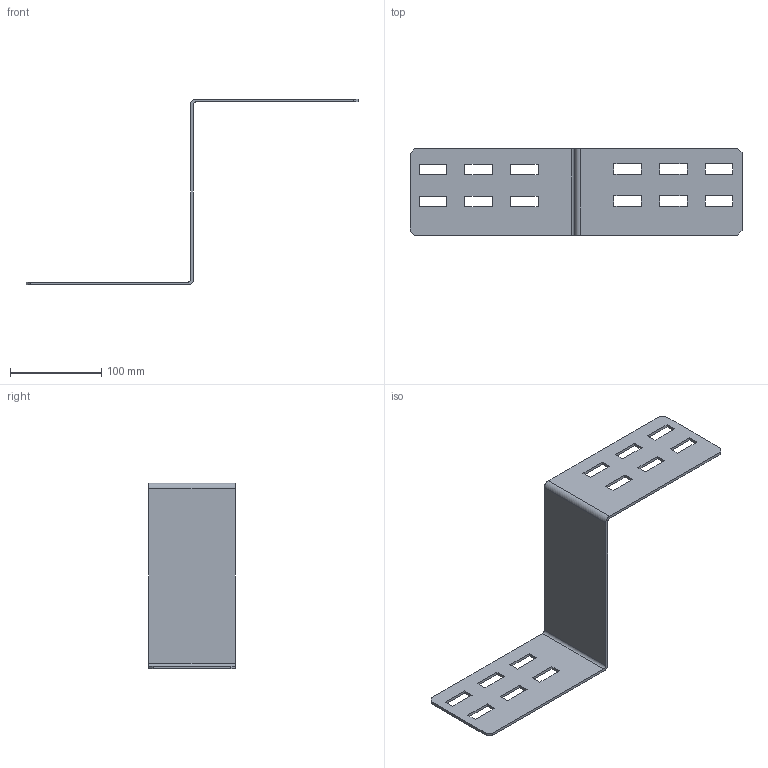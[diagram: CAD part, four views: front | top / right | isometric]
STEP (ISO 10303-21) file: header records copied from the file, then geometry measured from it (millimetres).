
FILE_DESCRIPTION(('Creo Elements/Direct Modeling STEP Export'),'2;1');
FILE_NAME('//pserver/office/EK/ME10-3D/3D-output/WPRL-L 100-20.stp','2020-03-12T10:44:00',(''),(''),'PTC Creo Elements/Direct Modeling STEP processor for AP214 (Solid Model)','PTC Creo Elements/Direct Modeling 19.0C 15-Aug-2015 (C) Parametric Technology GmbH','');
FILE_SCHEMA(('AUTOMOTIVE_DESIGN { 1 0 10303 214 1 1 1 1 }'));
Length unit declared in the file: millimetre
Products named in the file (2): WPRL-L100-20
Assembly tree (1 placements, depth 2):
  WPRL-L100-20
    WPRL-L100-20
Bounding box: 363 x 95 x 203 mm (x, y, z)
Volume: 146784.1 mm3; surface area: 104733.7 mm2
Topology: 1 solids, 1 shells, 66 faces, 192 edges, 128 vertices
Faces by surface type: plane 62, cylinder 4
Entity records: 2237 total; most frequent: CARTESIAN_POINT 388, ORIENTED_EDGE 384, DIRECTION 336, EDGE_CURVE 192, VECTOR 184, LINE 184, VERTEX_POINT 128, EDGE_LOOP 90
